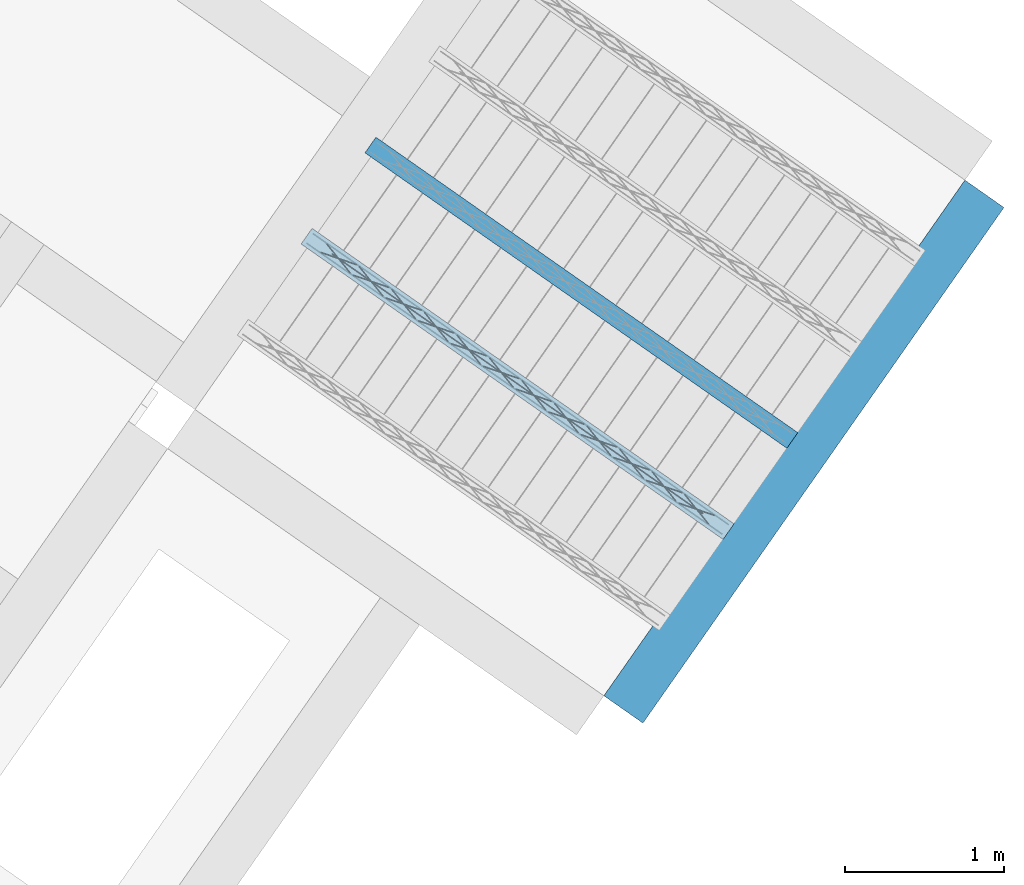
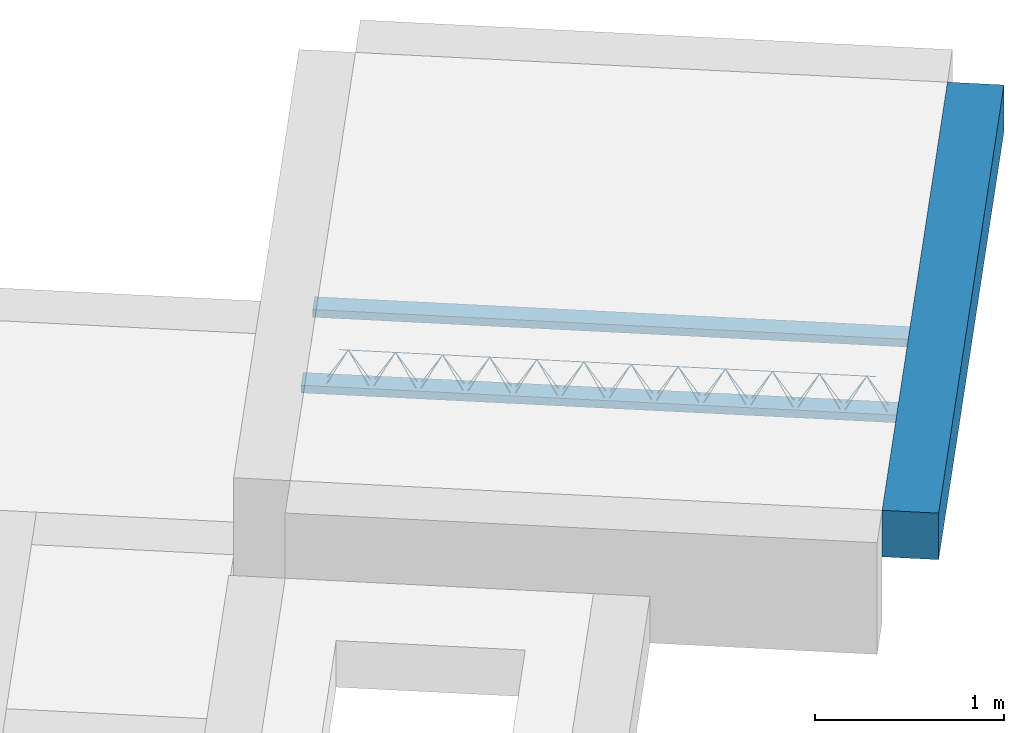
# One storey, part 22 of 46: 3 beams.
"""IFC2X3 building model written with IfcOpenShell, lengths in metres."""

from ifc_helpers import new_model, entity, si_unit, converted_unit, derived_unit, direction, frame, frame_2d, origin, origin_2d_with_axis, place, context, subcontext, project, spatial, rectangle, circle, extrude, material, type_object, element, save


model = new_model("IFC2X3")

# Units and contexts
model_context = context("Model", 3, precision=1e-05, world=origin(), true_north=direction((6.123031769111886e-17, 1.0)))
body_context = subcontext(model_context, "Body", "Model", "MODEL_VIEW")
ifc_project = project(units=[si_unit("LENGTHUNIT", "METRE"), si_unit("AREAUNIT", "SQUARE_METRE"), si_unit("VOLUMEUNIT", "CUBIC_METRE"), converted_unit("PLANEANGLEUNIT", "DEGREE", entity("IfcPlaneAngleMeasure", 0.017453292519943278), si_unit("PLANEANGLEUNIT", "RADIAN"), dimensions=[0, 0, 0, 0, 0, 0, 0]), si_unit("MASSUNIT", "GRAM", prefix="KILO"), derived_unit("MASSDENSITYUNIT", [(si_unit("MASSUNIT", "GRAM", prefix="KILO"), 1), (si_unit("LENGTHUNIT", "METRE"), -3)]), derived_unit("IONCONCENTRATIONUNIT", [(si_unit("MASSUNIT", "GRAM", prefix="KILO"), 1), (si_unit("LENGTHUNIT", "METRE"), -3)]), derived_unit("MOMENTOFINERTIAUNIT", [(si_unit("LENGTHUNIT", "METRE"), 4)]), si_unit("TIMEUNIT", "SECOND"), si_unit("FREQUENCYUNIT", "HERTZ"), si_unit("THERMODYNAMICTEMPERATUREUNIT", "DEGREE_CELSIUS"), derived_unit("THERMALTRANSMITTANCEUNIT", [(si_unit("MASSUNIT", "GRAM", prefix="KILO"), 1), (si_unit("THERMODYNAMICTEMPERATUREUNIT", "KELVIN"), -1), (si_unit("TIMEUNIT", "SECOND"), -3)]), derived_unit("THERMALCONDUCTANCEUNIT", [(si_unit("MASSUNIT", "GRAM", prefix="KILO"), 1), (si_unit("THERMODYNAMICTEMPERATUREUNIT", "KELVIN"), -1), (si_unit("TIMEUNIT", "SECOND"), -3), (si_unit("LENGTHUNIT", "METRE"), 1)]), derived_unit("VOLUMETRICFLOWRATEUNIT", [(si_unit("LENGTHUNIT", "METRE", prefix="DECI"), 3), (si_unit("TIMEUNIT", "SECOND"), -1)]), derived_unit("MASSFLOWRATEUNIT", [(si_unit("MASSUNIT", "GRAM", prefix="KILO"), 1), (si_unit("TIMEUNIT", "SECOND"), -1)]), derived_unit("ROTATIONALFREQUENCYUNIT", [(si_unit("TIMEUNIT", "SECOND"), -1)]), si_unit("ELECTRICCURRENTUNIT", "AMPERE"), si_unit("ELECTRICVOLTAGEUNIT", "VOLT"), si_unit("POWERUNIT", "WATT"), si_unit("FORCEUNIT", "NEWTON", prefix="KILO"), si_unit("ILLUMINANCEUNIT", "LUX"), si_unit("LUMINOUSFLUXUNIT", "LUMEN"), si_unit("LUMINOUSINTENSITYUNIT", "CANDELA"), si_unit("ENERGYUNIT", "JOULE"), derived_unit("USERDEFINED", [(si_unit("MASSUNIT", "GRAM", prefix="KILO"), -1), (si_unit("LENGTHUNIT", "METRE"), -2), (si_unit("TIMEUNIT", "SECOND"), 3), (si_unit("LUMINOUSFLUXUNIT", "LUMEN"), 1)]), derived_unit("USERDEFINED", [(si_unit("MASSUNIT", "GRAM", prefix="KILO"), 1), (si_unit("TIMEUNIT", "SECOND"), -3), (si_unit("LENGTHUNIT", "METRE"), 3), (si_unit("ELECTRICCURRENTUNIT", "AMPERE"), -2)]), derived_unit("SOUNDPOWERUNIT", [(si_unit("MASSUNIT", "GRAM", prefix="KILO"), 1), (si_unit("TIMEUNIT", "SECOND"), -3), (si_unit("LENGTHUNIT", "METRE"), 2)]), derived_unit("SOUNDPRESSUREUNIT", [(si_unit("MASSUNIT", "GRAM", prefix="KILO"), 1), (si_unit("LENGTHUNIT", "METRE"), -1), (si_unit("TIMEUNIT", "SECOND"), -2)]), derived_unit("LINEARVELOCITYUNIT", [(si_unit("LENGTHUNIT", "METRE"), 1), (si_unit("TIMEUNIT", "SECOND"), -1)]), si_unit("PRESSUREUNIT", "PASCAL"), derived_unit("USERDEFINED", [(si_unit("MASSUNIT", "GRAM", prefix="KILO"), 1), (si_unit("LENGTHUNIT", "METRE"), -2), (si_unit("TIMEUNIT", "SECOND"), -2)]), derived_unit("LINEARFORCEUNIT", [(si_unit("MASSUNIT", "GRAM", prefix="KILO"), 1), (si_unit("TIMEUNIT", "SECOND"), -2)]), derived_unit("PLANARFORCEUNIT", [(si_unit("MASSUNIT", "GRAM", prefix="KILO"), 1), (si_unit("LENGTHUNIT", "METRE"), -1), (si_unit("TIMEUNIT", "SECOND"), -2)]), derived_unit("SPECIFICHEATCAPACITYUNIT", [(si_unit("THERMODYNAMICTEMPERATUREUNIT", "KELVIN"), -1), (si_unit("LENGTHUNIT", "METRE"), 2), (si_unit("TIMEUNIT", "SECOND"), -2)]), derived_unit("HEATFLUXDENSITYUNIT", [(si_unit("MASSUNIT", "GRAM", prefix="KILO"), 1), (si_unit("TIMEUNIT", "SECOND"), -3)]), derived_unit("HEATINGVALUEUNIT", [(si_unit("LENGTHUNIT", "METRE"), 2), (si_unit("TIMEUNIT", "SECOND"), -2)]), derived_unit("VAPORPERMEABILITYUNIT", [(si_unit("LENGTHUNIT", "METRE"), -1), (si_unit("TIMEUNIT", "SECOND"), 1)]), derived_unit("DYNAMICVISCOSITYUNIT", [(si_unit("MASSUNIT", "GRAM", prefix="KILO"), 1), (si_unit("TIMEUNIT", "SECOND"), -1), (si_unit("LENGTHUNIT", "METRE"), -1)]), derived_unit("THERMALEXPANSIONCOEFFICIENTUNIT", [(si_unit("THERMODYNAMICTEMPERATUREUNIT", "KELVIN"), -1)]), derived_unit("MODULUSOFELASTICITYUNIT", [(si_unit("MASSUNIT", "GRAM", prefix="KILO"), 1), (si_unit("LENGTHUNIT", "METRE"), -1), (si_unit("TIMEUNIT", "SECOND"), -2)]), derived_unit("ISOTHERMALMOISTURECAPACITYUNIT", [(si_unit("MASSUNIT", "GRAM", prefix="KILO"), -1), (si_unit("LENGTHUNIT", "METRE"), 3)]), derived_unit("MOISTUREDIFFUSIVITYUNIT", [(si_unit("TIMEUNIT", "SECOND"), -1), (si_unit("LENGTHUNIT", "METRE"), 2)]), derived_unit("MASSPERLENGTHUNIT", [(si_unit("MASSUNIT", "GRAM", prefix="KILO"), 1), (si_unit("LENGTHUNIT", "METRE"), -1)]), derived_unit("THERMALRESISTANCEUNIT", [(si_unit("MASSUNIT", "GRAM", prefix="KILO"), -1), (si_unit("TIMEUNIT", "SECOND"), 3), (si_unit("THERMODYNAMICTEMPERATUREUNIT", "KELVIN"), 1)]), derived_unit("ACCELERATIONUNIT", [(si_unit("LENGTHUNIT", "METRE"), 1), (si_unit("TIMEUNIT", "SECOND"), -2)]), derived_unit("ANGULARVELOCITYUNIT", [(si_unit("TIMEUNIT", "SECOND"), -1), (si_unit("PLANEANGLEUNIT", "RADIAN"), 1)]), derived_unit("LINEARSTIFFNESSUNIT", [(si_unit("MASSUNIT", "GRAM", prefix="KILO"), 1), (si_unit("TIMEUNIT", "SECOND"), -2)]), derived_unit("WARPINGCONSTANTUNIT", [(si_unit("LENGTHUNIT", "METRE"), 6)]), derived_unit("LINEARMOMENTUNIT", [(si_unit("MASSUNIT", "GRAM", prefix="KILO"), 1), (si_unit("LENGTHUNIT", "METRE"), 1), (si_unit("TIMEUNIT", "SECOND"), -2)]), derived_unit("TORQUEUNIT", [(si_unit("MASSUNIT", "GRAM", prefix="KILO"), 1), (si_unit("LENGTHUNIT", "METRE"), 2), (si_unit("TIMEUNIT", "SECOND"), -2)])], contexts=[model_context])

# Site, building, storey
site_placement = place(None, origin())
site = spatial("IfcSite", under=ifc_project, at=site_placement, Name="Default", CompositionType="ELEMENT")
building_placement = place(site_placement, origin())
building = spatial("IfcBuilding", under=site, at=building_placement, CompositionType="ELEMENT")
storey_placement = place(building_placement, frame((0.0, 0.0, 99.52000000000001)))
storey = spatial("IfcBuildingStorey", under=building, at=storey_placement, Name="F1", CompositionType="ELEMENT", Elevation=99.52000000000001)

# Beams
beam_type = type_object("IfcBeamType", Name="Vigueta 2 (Paño 3) (Mf = 14.34)", PredefinedType="JOIST")
beam_1_placement = place(storey_placement, origin())
element("IfcBeam", 1, at=beam_1_placement, inside=storey, type_object=beam_type, Name="Vigueta 2 (Paño 3) (Mf = 14.34)", ObjectType="Mf = 14.34", context=body_context, shape_type="SweptSolid", body=[
    extrude(rectangle(XDim=3.24, YDim=0.1199999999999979, at=frame_2d((4.440892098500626e-16, 1.2836953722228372e-15), x_axis=(1.0, 0.0))), frame((12.206501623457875, 4.454509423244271, 0.2000000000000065), z_axis=(0.0, 0.0, 1.0), x_axis=(0.8191520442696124, -0.5735764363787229, 0.0)), (0.0, 0.0, 1.0), 0.04999999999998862),
    extrude(circle(Radius=0.0025, at=origin_2d_with_axis()), frame((10.878486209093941, 5.340447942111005, 0.22500000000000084), z_axis=(0.8191520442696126, -0.5735764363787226, 0.0), x_axis=(-0.5735764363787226, -0.8191520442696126, 0.0)), (0.0, 0.0, 1.0), 3.191999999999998),
    extrude(circle(Radius=0.0025, at=origin_2d_with_axis()), frame((13.373793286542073, 3.637163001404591, 0.4500000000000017), z_axis=(-0.8191520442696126, 0.5735764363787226, 0.0), x_axis=(-0.5735764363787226, -0.8191520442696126, 0.0)), (0.0, 0.0, 1.0), 2.8499999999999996),
    extrude(circle(Radius=0.0025, at=origin_2d_with_axis()), frame((13.41458093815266, 3.564655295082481, 0.22500000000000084), z_axis=(-0.3145304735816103, 0.389334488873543, 0.8657304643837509), x_axis=(-0.7778747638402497, -0.6284193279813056, 0.0)), (0.0, 0.0, 1.0), 0.2598961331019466),
    extrude(circle(Radius=0.0025, at=origin_2d_with_axis()), frame((13.209792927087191, 3.7080494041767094, 0.22499999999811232), z_axis=(0.47343050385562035, -0.1624017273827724, 0.8657304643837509), x_axis=(-0.3244721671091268, -0.9458952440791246, 0.0)), (0.0, 0.0, 1.0), 0.25989613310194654),
    extrude(circle(Radius=0.0025, at=origin_2d_with_axis()), frame((13.209792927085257, 3.708049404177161, 0.22500000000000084), z_axis=(-0.3145304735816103, 0.389334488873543, 0.8657304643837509), x_axis=(-0.7778747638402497, -0.6284193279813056, 0.0)), (0.0, 0.0, 1.0), 0.2598961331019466),
    extrude(circle(Radius=0.0025, at=origin_2d_with_axis()), frame((13.00500491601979, 3.85144351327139, 0.22499999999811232), z_axis=(0.47343050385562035, -0.1624017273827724, 0.8657304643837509), x_axis=(-0.3244721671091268, -0.9458952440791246, 0.0)), (0.0, 0.0, 1.0), 0.25989613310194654),
    extrude(circle(Radius=0.0025, at=origin_2d_with_axis()), frame((13.005004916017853, 3.8514435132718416, 0.22500000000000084), z_axis=(-0.3145304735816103, 0.389334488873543, 0.8657304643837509), x_axis=(-0.7778747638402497, -0.6284193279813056, 0.0)), (0.0, 0.0, 1.0), 0.2598961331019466),
    extrude(circle(Radius=0.0025, at=origin_2d_with_axis()), frame((12.800216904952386, 3.9948376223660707, 0.22499999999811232), z_axis=(0.47343050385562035, -0.1624017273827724, 0.8657304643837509), x_axis=(-0.3244721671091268, -0.9458952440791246, 0.0)), (0.0, 0.0, 1.0), 0.25989613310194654),
    extrude(circle(Radius=0.0025, at=origin_2d_with_axis()), frame((12.800216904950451, 3.9948376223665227, 0.22500000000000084), z_axis=(-0.3145304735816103, 0.389334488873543, 0.8657304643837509), x_axis=(-0.7778747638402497, -0.6284193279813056, 0.0)), (0.0, 0.0, 1.0), 0.2598961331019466),
    extrude(circle(Radius=0.0025, at=origin_2d_with_axis()), frame((12.59542889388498, 4.138231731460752, 0.22499999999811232), z_axis=(0.47343050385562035, -0.1624017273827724, 0.8657304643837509), x_axis=(-0.3244721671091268, -0.9458952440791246, 0.0)), (0.0, 0.0, 1.0), 0.25989613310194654),
    extrude(circle(Radius=0.0025, at=origin_2d_with_axis()), frame((12.595428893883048, 4.138231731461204, 0.22500000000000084), z_axis=(-0.3145304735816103, 0.389334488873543, 0.8657304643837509), x_axis=(-0.7778747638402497, -0.6284193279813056, 0.0)), (0.0, 0.0, 1.0), 0.2598961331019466),
    extrude(circle(Radius=0.0025, at=origin_2d_with_axis()), frame((12.390640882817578, 4.281625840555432, 0.22499999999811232), z_axis=(0.47343050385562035, -0.1624017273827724, 0.8657304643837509), x_axis=(-0.3244721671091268, -0.9458952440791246, 0.0)), (0.0, 0.0, 1.0), 0.25989613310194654),
    extrude(circle(Radius=0.0025, at=origin_2d_with_axis()), frame((12.390640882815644, 4.281625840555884, 0.22500000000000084), z_axis=(-0.3145304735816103, 0.389334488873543, 0.8657304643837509), x_axis=(-0.7778747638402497, -0.6284193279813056, 0.0)), (0.0, 0.0, 1.0), 0.2598961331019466),
    extrude(circle(Radius=0.0025, at=origin_2d_with_axis()), frame((12.185852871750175, 4.425019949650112, 0.22499999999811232), z_axis=(0.47343050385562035, -0.1624017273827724, 0.8657304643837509), x_axis=(-0.3244721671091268, -0.9458952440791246, 0.0)), (0.0, 0.0, 1.0), 0.25989613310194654),
    extrude(circle(Radius=0.0025, at=origin_2d_with_axis()), frame((12.185852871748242, 4.425019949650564, 0.22500000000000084), z_axis=(-0.3145304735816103, 0.389334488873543, 0.8657304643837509), x_axis=(-0.7778747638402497, -0.6284193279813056, 0.0)), (0.0, 0.0, 1.0), 0.2598961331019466),
    extrude(circle(Radius=0.0025, at=origin_2d_with_axis()), frame((11.981064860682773, 4.568414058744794, 0.22499999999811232), z_axis=(0.47343050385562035, -0.1624017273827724, 0.8657304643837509), x_axis=(-0.3244721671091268, -0.9458952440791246, 0.0)), (0.0, 0.0, 1.0), 0.25989613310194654),
    extrude(circle(Radius=0.0025, at=origin_2d_with_axis()), frame((11.981064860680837, 4.568414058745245, 0.22500000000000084), z_axis=(-0.3145304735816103, 0.389334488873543, 0.8657304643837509), x_axis=(-0.7778747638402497, -0.6284193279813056, 0.0)), (0.0, 0.0, 1.0), 0.2598961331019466),
    extrude(circle(Radius=0.0025, at=origin_2d_with_axis()), frame((11.77627684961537, 4.711808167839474, 0.22499999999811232), z_axis=(0.47343050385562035, -0.1624017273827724, 0.8657304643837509), x_axis=(-0.3244721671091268, -0.9458952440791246, 0.0)), (0.0, 0.0, 1.0), 0.25989613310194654),
    extrude(circle(Radius=0.0025, at=origin_2d_with_axis()), frame((11.776276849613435, 4.7118081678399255, 0.22500000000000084), z_axis=(-0.3145304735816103, 0.389334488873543, 0.8657304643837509), x_axis=(-0.7778747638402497, -0.6284193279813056, 0.0)), (0.0, 0.0, 1.0), 0.2598961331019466),
    extrude(circle(Radius=0.0025, at=origin_2d_with_axis()), frame((11.571488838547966, 4.855202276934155, 0.22499999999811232), z_axis=(0.47343050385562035, -0.1624017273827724, 0.8657304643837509), x_axis=(-0.3244721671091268, -0.9458952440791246, 0.0)), (0.0, 0.0, 1.0), 0.25989613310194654),
    extrude(circle(Radius=0.0025, at=origin_2d_with_axis()), frame((11.571488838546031, 4.855202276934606, 0.22500000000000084), z_axis=(-0.3145304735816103, 0.389334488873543, 0.8657304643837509), x_axis=(-0.7778747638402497, -0.6284193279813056, 0.0)), (0.0, 0.0, 1.0), 0.2598961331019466),
    extrude(circle(Radius=0.0025, at=origin_2d_with_axis()), frame((11.366700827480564, 4.998596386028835, 0.22499999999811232), z_axis=(0.47343050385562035, -0.1624017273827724, 0.8657304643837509), x_axis=(-0.3244721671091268, -0.9458952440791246, 0.0)), (0.0, 0.0, 1.0), 0.25989613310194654),
    extrude(circle(Radius=0.0025, at=origin_2d_with_axis()), frame((11.366700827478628, 4.998596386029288, 0.22500000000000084), z_axis=(-0.3145304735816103, 0.389334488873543, 0.8657304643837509), x_axis=(-0.7778747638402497, -0.6284193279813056, 0.0)), (0.0, 0.0, 1.0), 0.2598961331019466),
    extrude(circle(Radius=0.0025, at=origin_2d_with_axis()), frame((11.16191281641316, 5.141990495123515, 0.22499999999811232), z_axis=(0.47343050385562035, -0.1624017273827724, 0.8657304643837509), x_axis=(-0.3244721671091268, -0.9458952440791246, 0.0)), (0.0, 0.0, 1.0), 0.25989613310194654),
    extrude(circle(Radius=0.0025, at=origin_2d_with_axis()), frame((11.161912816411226, 5.141990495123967, 0.22500000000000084), z_axis=(-0.3145304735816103, 0.389334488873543, 0.8657304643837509), x_axis=(-0.7778747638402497, -0.6284193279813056, 0.0)), (0.0, 0.0, 1.0), 0.2598961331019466),
    extrude(circle(Radius=0.0025, at=origin_2d_with_axis()), frame((10.957124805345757, 5.285384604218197, 0.22499999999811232), z_axis=(0.47343050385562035, -0.1624017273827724, 0.8657304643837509), x_axis=(-0.3244721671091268, -0.9458952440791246, 0.0)), (0.0, 0.0, 1.0), 0.25989613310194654),
    extrude(circle(Radius=0.0025, at=origin_2d_with_axis()), frame((10.919783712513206, 5.399426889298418, 0.22500000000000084), z_axis=(0.8191520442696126, -0.5735764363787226, 0.0), x_axis=(-0.5735764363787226, -0.8191520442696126, 0.0)), (0.0, 0.0, 1.0), 3.1920000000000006),
    extrude(circle(Radius=0.0025, at=origin_2d_with_axis()), frame((13.455878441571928, 3.6236342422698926, 0.22500000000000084), z_axis=(-0.47343050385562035, 0.1624017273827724, 0.8657304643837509), x_axis=(-0.3244721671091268, -0.9458952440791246, 0.0)), (0.0, 0.0, 1.0), 0.25989613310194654),
    extrude(circle(Radius=0.0025, at=origin_2d_with_axis()), frame((13.251090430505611, 3.767028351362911, 0.22499999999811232), z_axis=(0.3145304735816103, -0.389334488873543, 0.8657304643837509), x_axis=(-0.7778747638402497, -0.6284193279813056, 0.0)), (0.0, 0.0, 1.0), 0.2598961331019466),
    extrude(circle(Radius=0.0025, at=origin_2d_with_axis()), frame((13.251090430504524, 3.767028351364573, 0.22500000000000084), z_axis=(-0.47343050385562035, 0.1624017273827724, 0.8657304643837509), x_axis=(-0.3244721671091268, -0.9458952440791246, 0.0)), (0.0, 0.0, 1.0), 0.25989613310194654),
    extrude(circle(Radius=0.0025, at=origin_2d_with_axis()), frame((13.04630241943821, 3.910422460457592, 0.22499999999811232), z_axis=(0.3145304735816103, -0.389334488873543, 0.8657304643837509), x_axis=(-0.7778747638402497, -0.6284193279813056, 0.0)), (0.0, 0.0, 1.0), 0.2598961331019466),
    extrude(circle(Radius=0.0025, at=origin_2d_with_axis()), frame((13.04630241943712, 3.910422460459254, 0.22500000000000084), z_axis=(-0.47343050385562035, 0.1624017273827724, 0.8657304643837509), x_axis=(-0.3244721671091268, -0.9458952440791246, 0.0)), (0.0, 0.0, 1.0), 0.25989613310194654),
    extrude(circle(Radius=0.0025, at=origin_2d_with_axis()), frame((12.841514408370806, 4.053816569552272, 0.22499999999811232), z_axis=(0.3145304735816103, -0.389334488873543, 0.8657304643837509), x_axis=(-0.7778747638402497, -0.6284193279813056, 0.0)), (0.0, 0.0, 1.0), 0.2598961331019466),
    extrude(circle(Radius=0.0025, at=origin_2d_with_axis()), frame((12.841514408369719, 4.053816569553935, 0.22500000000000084), z_axis=(-0.47343050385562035, 0.1624017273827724, 0.8657304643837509), x_axis=(-0.3244721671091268, -0.9458952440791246, 0.0)), (0.0, 0.0, 1.0), 0.25989613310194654),
    extrude(circle(Radius=0.0025, at=origin_2d_with_axis()), frame((12.636726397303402, 4.197210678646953, 0.22499999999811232), z_axis=(0.3145304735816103, -0.389334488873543, 0.8657304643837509), x_axis=(-0.7778747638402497, -0.6284193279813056, 0.0)), (0.0, 0.0, 1.0), 0.2598961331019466),
    extrude(circle(Radius=0.0025, at=origin_2d_with_axis()), frame((12.636726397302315, 4.197210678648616, 0.22500000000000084), z_axis=(-0.47343050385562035, 0.1624017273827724, 0.8657304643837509), x_axis=(-0.3244721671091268, -0.9458952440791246, 0.0)), (0.0, 0.0, 1.0), 0.25989613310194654),
    extrude(circle(Radius=0.0025, at=origin_2d_with_axis()), frame((12.431938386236, 4.3406047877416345, 0.22499999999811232), z_axis=(0.3145304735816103, -0.389334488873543, 0.8657304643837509), x_axis=(-0.7778747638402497, -0.6284193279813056, 0.0)), (0.0, 0.0, 1.0), 0.2598961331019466),
    extrude(circle(Radius=0.0025, at=origin_2d_with_axis()), frame((12.431938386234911, 4.340604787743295, 0.22500000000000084), z_axis=(-0.47343050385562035, 0.1624017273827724, 0.8657304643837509), x_axis=(-0.3244721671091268, -0.9458952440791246, 0.0)), (0.0, 0.0, 1.0), 0.25989613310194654),
    extrude(circle(Radius=0.0025, at=origin_2d_with_axis()), frame((12.227150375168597, 4.483998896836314, 0.22499999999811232), z_axis=(0.3145304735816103, -0.389334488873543, 0.8657304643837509), x_axis=(-0.7778747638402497, -0.6284193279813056, 0.0)), (0.0, 0.0, 1.0), 0.2598961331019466),
    extrude(circle(Radius=0.0025, at=origin_2d_with_axis()), frame((12.22715037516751, 4.483998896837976, 0.22500000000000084), z_axis=(-0.47343050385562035, 0.1624017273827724, 0.8657304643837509), x_axis=(-0.3244721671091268, -0.9458952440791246, 0.0)), (0.0, 0.0, 1.0), 0.25989613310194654),
    extrude(circle(Radius=0.0025, at=origin_2d_with_axis()), frame((12.022362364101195, 4.627393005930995, 0.22499999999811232), z_axis=(0.3145304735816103, -0.389334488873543, 0.8657304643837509), x_axis=(-0.7778747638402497, -0.6284193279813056, 0.0)), (0.0, 0.0, 1.0), 0.2598961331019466),
    extrude(circle(Radius=0.0025, at=origin_2d_with_axis()), frame((12.022362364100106, 4.627393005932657, 0.22500000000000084), z_axis=(-0.47343050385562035, 0.1624017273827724, 0.8657304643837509), x_axis=(-0.3244721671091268, -0.9458952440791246, 0.0)), (0.0, 0.0, 1.0), 0.25989613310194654),
    extrude(circle(Radius=0.0025, at=origin_2d_with_axis()), frame((11.817574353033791, 4.770787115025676, 0.22499999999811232), z_axis=(0.3145304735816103, -0.389334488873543, 0.8657304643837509), x_axis=(-0.7778747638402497, -0.6284193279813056, 0.0)), (0.0, 0.0, 1.0), 0.2598961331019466),
    extrude(circle(Radius=0.0025, at=origin_2d_with_axis()), frame((11.8175743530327, 4.770787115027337, 0.22500000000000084), z_axis=(-0.47343050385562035, 0.1624017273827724, 0.8657304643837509), x_axis=(-0.3244721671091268, -0.9458952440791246, 0.0)), (0.0, 0.0, 1.0), 0.25989613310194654),
    extrude(circle(Radius=0.0025, at=origin_2d_with_axis()), frame((11.612786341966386, 4.914181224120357, 0.22499999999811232), z_axis=(0.3145304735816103, -0.389334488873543, 0.8657304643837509), x_axis=(-0.7778747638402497, -0.6284193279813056, 0.0)), (0.0, 0.0, 1.0), 0.2598961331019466),
    extrude(circle(Radius=0.0025, at=origin_2d_with_axis()), frame((11.612786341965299, 4.914181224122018, 0.22500000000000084), z_axis=(-0.47343050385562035, 0.1624017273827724, 0.8657304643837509), x_axis=(-0.3244721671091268, -0.9458952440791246, 0.0)), (0.0, 0.0, 1.0), 0.25989613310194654),
    extrude(circle(Radius=0.0025, at=origin_2d_with_axis()), frame((11.407998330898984, 5.057575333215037, 0.22499999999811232), z_axis=(0.3145304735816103, -0.389334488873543, 0.8657304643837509), x_axis=(-0.7778747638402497, -0.6284193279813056, 0.0)), (0.0, 0.0, 1.0), 0.2598961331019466),
    extrude(circle(Radius=0.0025, at=origin_2d_with_axis()), frame((11.407998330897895, 5.057575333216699, 0.22500000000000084), z_axis=(-0.47343050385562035, 0.1624017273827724, 0.8657304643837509), x_axis=(-0.3244721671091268, -0.9458952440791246, 0.0)), (0.0, 0.0, 1.0), 0.25989613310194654),
    extrude(circle(Radius=0.0025, at=origin_2d_with_axis()), frame((11.20321031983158, 5.2009694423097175, 0.22499999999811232), z_axis=(0.3145304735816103, -0.389334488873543, 0.8657304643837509), x_axis=(-0.7778747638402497, -0.6284193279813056, 0.0)), (0.0, 0.0, 1.0), 0.2598961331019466),
    extrude(circle(Radius=0.0025, at=origin_2d_with_axis()), frame((11.203210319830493, 5.20096944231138, 0.22500000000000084), z_axis=(-0.47343050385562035, 0.1624017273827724, 0.8657304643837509), x_axis=(-0.3244721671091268, -0.9458952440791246, 0.0)), (0.0, 0.0, 1.0), 0.25989613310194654),
    extrude(circle(Radius=0.0025, at=origin_2d_with_axis()), frame((10.998422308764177, 5.344363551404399, 0.22499999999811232), z_axis=(0.3145304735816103, -0.389334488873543, 0.8657304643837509), x_axis=(-0.7778747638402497, -0.6284193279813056, 0.0)), (0.0, 0.0, 1.0), 0.2598961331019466),
])
ifc_material = material(Name="Hormigón armado")
beam_2_placement = place(storey_placement, origin())
element("IfcBeam", 2, at=beam_2_placement, inside=storey, material=ifc_material, Name="238202", context=body_context, shape_type="SweptSolid", body=[
    extrude(rectangle(XDim=0.04999999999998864, YDim=0.12000000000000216, at=origin_2d_with_axis()), frame((11.28097881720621, 5.95710968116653, 0.22500000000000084), z_axis=(0.8191520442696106, -0.5735764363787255, 0.0), x_axis=(0.0, 0.0, -1.0)), (0.0, 0.0, 1.0), 3.2399999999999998),
])
beam_3_placement = place(storey_placement, origin())
element("IfcBeam", 3, at=beam_3_placement, inside=storey, material=ifc_material, Name="Viga 3 (30x30)", ObjectType="30x30", context=body_context, shape_type="SweptSolid", body=[
    extrude(rectangle(XDim=0.3000000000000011, YDim=0.30000000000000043, at=frame_2d((-8.326672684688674e-17, 0.0), x_axis=(0.0, 1.0))), frame((12.872087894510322, 2.4063366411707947, 0.3500000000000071), z_axis=(0.573576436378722, 0.819152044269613, 0.0), x_axis=(-0.819152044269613, 0.573576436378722, 0.0)), (0.0, 0.0, 1.0), 3.9600000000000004),
])

save(model, "model.ifc")
